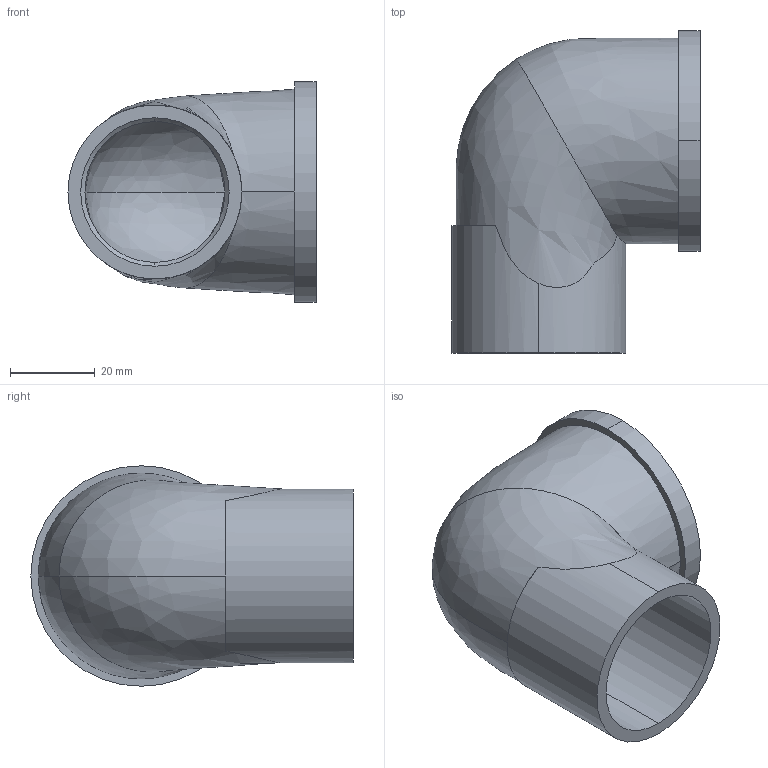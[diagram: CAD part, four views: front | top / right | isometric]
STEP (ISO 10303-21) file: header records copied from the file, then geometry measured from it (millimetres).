
FILE_DESCRIPTION (( 'STEP AP214' ), '1' );
FILE_NAME ('4090g 35X1寸2.STEP', '2013-09-23T23:22:52', ( '微软用户' ), ( '微软中国' ), 'SwSTEP 2.0', 'SolidWorks 2008', '' );
FILE_SCHEMA (( 'AUTOMOTIVE_DESIGN' ));
Length unit declared in the file: millimetre
Products named in the file (1): 4090g 35X1渡2
Bounding box: 58.5 x 76 x 52 mm (x, y, z)
Volume: 36196.1 mm3; surface area: 24918.7 mm2
Topology: 1 solids, 1 shells, 42 faces, 114 edges, 75 vertices
Faces by surface type: cylinder 22, bspline 8, plane 7, cone 5
Entity records: 3584 total; most frequent: CARTESIAN_POINT 2661, ORIENTED_EDGE 228, DIRECTION 140, EDGE_CURVE 114, VERTEX_POINT 75, AXIS2_PLACEMENT_3D 55, EDGE_LOOP 45, ADVANCED_FACE 42
